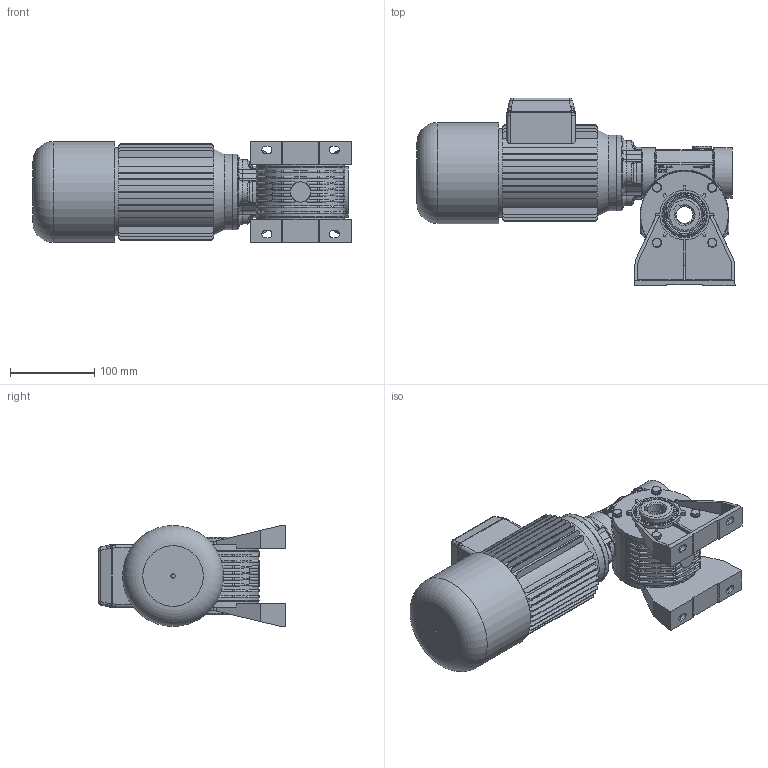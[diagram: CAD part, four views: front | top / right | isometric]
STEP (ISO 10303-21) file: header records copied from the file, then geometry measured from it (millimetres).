
FILE_DESCRIPTION((''),'2;1');
FILE_NAME('Y:\Archivi Inventor\Prog_01\GRAND_10\Figurini\mrv10 VECCHIO\pam63 b14 - B\MRV10 PAM63B14 P2 B.stp','2014-01-15T10:00:14',('tech3'),(''),'Autodesk Inventor 2013','Autodesk Inventor 2013','');
FILE_SCHEMA(('AUTOMOTIVE_DESIGN { 1 0 10303 214 1 1 1 1 }'));
Length unit declared in the file: millimetre
Products named in the file (15): mrv10; V10_PRIMARIO; carcassa mrv10 fig; corona MRV10-f22 fig; RCA_40x7; 40_52_8; Tappo 3_8 GAS_esagn_incsst; Guarnizione 3_8 GAS; 0101029; DIN EN 24017 M6 x 16; 0101010; 0101028; 0101006; DIN EN ISO 4762 M6 x 16; motori B14 brake 63
Assembly tree (27 placements, depth 3):
  mrv10
    V10_PRIMARIO
      carcassa mrv10 fig
      corona MRV10-f22 fig
      RCA_40x7
      40_52_8  x2
      Tappo 3_8 GAS_esagn_incsst
      Guarnizione 3_8 GAS
      0101029  x2
      DIN EN 24017 M6 x 16  x8
      0101010  x2
      0101028
    0101006
    DIN EN ISO 4762 M6 x 16  x4
    motori B14 brake 63
Bounding box: 377.95 x 223 x 120 mm (x, y, z)
Volume: 2636869.5 mm3; surface area: 450080.2 mm2
Topology: 27 solids, 31 shells, 1877 faces, 4773 edges, 3055 vertices
Faces by surface type: plane 1056, cylinder 383, bspline 224, cone 118, torus 88, sphere 8
Full cylindrical faces by diameter (mm): 2 x2, 4.134 x4, 4.917 x12, 5 x1, 6 x20, 6.5 x20, 8 x1, 8.88 x8, 10 x4, 11 x9, 14.95 x1, 16.3 x1, 16.5 x1, 19.981 x2, 22 x2, 24 x1, 35 x1, 35.2 x1, 39.4 x2, 40 x11, 42.5 x1, 42.881 x2, 47.232 x2, 52 x4, 60 x4, 80 x2, 82 x6, 90 x2, 103.5 x2, 104 x2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
Entity records: 52861 total; most frequent: CARTESIAN_POINT 15565, ORIENTED_EDGE 7802, DIRECTION 6919, EDGE_CURVE 3901, VERTEX_POINT 2593, AXIS2_PLACEMENT_3D 2342, VECTOR 2235, LINE 2235
